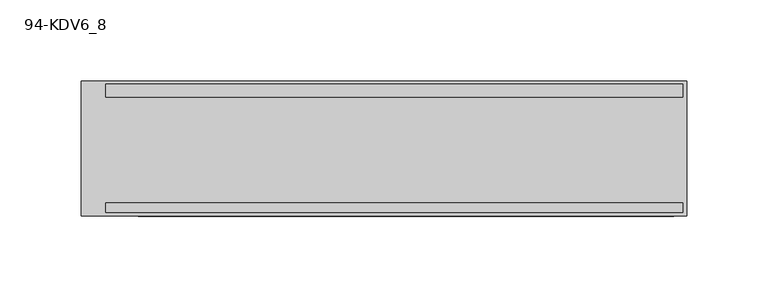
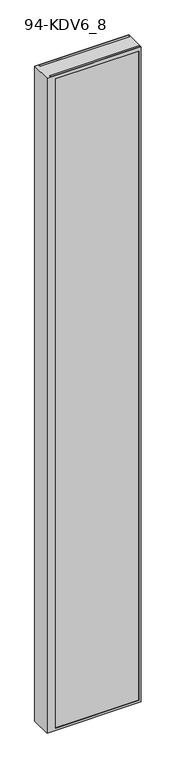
"""IFC4 building model written with IfcOpenShell, lengths in millimetres: plate geometry, PNX_VITRE_DV : 94-KDV6_8."""

import ifcopenshell
import ifcopenshell.guid

model = None  # the IFC model being written
_history = None  # IfcOwnerHistory: only IFC2X3 demands one
_inside = {}  # id of a spatial element -> (the spatial element, [elements in it])
_under = {}  # id of a project, library or spatial element -> (it, [spatial elements below it])
_declared = {}  # id of a project -> (the project, [libraries it declares])
_typed = {}  # id of a type object -> (the type object, [elements of that type])
_made_of = {}  # id of a material, layer set ... -> (it, [elements and type objects made of it])


def new_model(schema):
    """Start an empty IFC model of exactly this schema.

    Asked for "IFC4X3", IfcOpenShell would pick the latest addendum, in which some entities
    have other attributes; the version numbers below select the first issue.
    IFC2X3 requires an IfcOwnerHistory on every rooted entity: one is made here for all.
    """
    global model, _history
    if schema == "IFC4X3":
        model = ifcopenshell.file(schema_version=(4, 3, 0, 0))
    else:
        model = ifcopenshell.file(schema=schema)
    _inside.clear()
    _under.clear()
    _declared.clear()
    _typed.clear()
    _made_of.clear()
    _history = None
    if model.schema == "IFC2X3":
        org = make("IfcOrganization", Name="unknown")
        user = make(
            "IfcPersonAndOrganization",
            ThePerson=make("IfcPerson", FamilyName="unknown"),
            TheOrganization=org,
        )
        app = make(
            "IfcApplication",
            ApplicationDeveloper=org,
            Version="unknown",
            ApplicationFullName="unknown",
            ApplicationIdentifier="unknown",
        )
        _history = make(
            "IfcOwnerHistory",
            OwningUser=user,
            OwningApplication=app,
            ChangeAction="ADDED",
            CreationDate=0,
        )
    return model


def make(cls, **values):
    """One entity of the class cls with the attributes given. An attribute that is None is left unset."""
    return model.create_entity(
        cls, **{name: value for name, value in values.items() if value is not None}
    )


def rooted(cls, **values):
    """An entity with a GlobalId (a new one), such as an element, a storey or a relation."""
    return make(cls, GlobalId=ifcopenshell.guid.new(), OwnerHistory=_history, **values)


def si_unit(unit_type, name, prefix=None):
    """IfcSIUnit, for example si_unit("LENGTHUNIT", "METRE", prefix="MILLI")."""
    return make("IfcSIUnit", UnitType=unit_type, Prefix=prefix, Name=name)


def assignment(units):
    """IfcUnitAssignment: the units of a project."""
    return None if units is None else make("IfcUnitAssignment", Units=units)


def point(xyz):
    """IfcCartesianPoint."""
    return None if xyz is None else make("IfcCartesianPoint", Coordinates=xyz)


def direction(xyz):
    """IfcDirection."""
    return None if xyz is None else make("IfcDirection", DirectionRatios=xyz)


def frame(location, z_axis=None, x_axis=None):
    """IfcAxis2Placement3D, a coordinate frame: its origin and axes. An axis left out is left unset."""
    return make(
        "IfcAxis2Placement3D",
        Location=point(location),
        Axis=direction(z_axis),
        RefDirection=direction(x_axis),
    )


def origin():
    """The frame at (0, 0, 0) with its axes left unset."""
    return frame((0.0, 0.0, 0.0))


def origin_with_axes():
    """The frame at (0, 0, 0) with the z axis (0, 0, 1) and the x axis (1, 0, 0) written out."""
    return frame((0.0, 0.0, 0.0), z_axis=(0.0, 0.0, 1.0), x_axis=(1.0, 0.0, 0.0))


def place(relative_to, where):
    """IfcLocalPlacement: puts the frame where relative to a parent placement (None: the world)."""
    return make(
        "IfcLocalPlacement", PlacementRelTo=relative_to, RelativePlacement=where
    )


def context(
    kind, dimensions, precision=None, world=None, true_north=None, identifier=None
):
    """IfcGeometricRepresentationContext, for example the 3D "Model" context."""
    return make(
        "IfcGeometricRepresentationContext",
        ContextIdentifier=identifier,
        ContextType=kind,
        CoordinateSpaceDimension=dimensions,
        Precision=precision,
        WorldCoordinateSystem=world,
        TrueNorth=true_north,
    )


def project(units=None, contexts=None):
    """IfcProject with its units and contexts."""
    return rooted(
        "IfcProject",
        Name="project",
        RepresentationContexts=contexts,
        UnitsInContext=assignment(units),
    )


def spatial(cls, under=None, at=None, **own):
    """A site, building, storey or space (cls), placed at a placement, below another one or the project."""
    s = rooted(cls, ObjectPlacement=at, **own)
    if under is not None:
        _under.setdefault(under.id(), (under, []))[1].append(s)
    return s


def polyline(points):
    """IfcPolyline through the points."""
    return make("IfcPolyline", Points=[point(p) for p in points])


def outline(outer, holes=None, kind="AREA"):
    """IfcArbitraryClosedProfileDef: a profile drawn as a closed curve; with holes, ...WithVoids."""
    if holes is None:
        return make("IfcArbitraryClosedProfileDef", ProfileType=kind, OuterCurve=outer)
    return make(
        "IfcArbitraryProfileDefWithVoids",
        ProfileType=kind,
        OuterCurve=outer,
        InnerCurves=holes,
    )


def extrude(swept, where, along, depth):
    """IfcExtrudedAreaSolid: the profile swept, set in the frame where, extruded along a direction by depth."""
    return make(
        "IfcExtrudedAreaSolid",
        SweptArea=swept,
        Position=where,
        ExtrudedDirection=direction(along),
        Depth=depth,
    )


def shape(context_of_items, identifier, shape_type, items):
    """IfcShapeRepresentation: the items that make up one representation, for example the "Body"."""
    return make(
        "IfcShapeRepresentation",
        ContextOfItems=context_of_items,
        RepresentationIdentifier=identifier,
        RepresentationType=shape_type,
        Items=items,
    )


def source(mapping_origin, context_of_items, identifier, shape_type, items):
    """IfcRepresentationMap: a shape defined once, which mapped items show again and again."""
    return make(
        "IfcRepresentationMap",
        MappingOrigin=mapping_origin,
        MappedRepresentation=shape(context_of_items, identifier, shape_type, items),
    )


def transform(
    local_origin,
    x_axis=None,
    y_axis=None,
    z_axis=None,
    scale=None,
    scale2=None,
    scale3=None,
    uniform=True,
):
    """IfcCartesianTransformationOperator3D, or its non-uniform kind. x_axis, y_axis, z_axis: its Axis1, 2, 3."""
    if uniform:
        return make(
            "IfcCartesianTransformationOperator3D",
            Axis1=direction(x_axis),
            Axis2=direction(y_axis),
            LocalOrigin=point(local_origin),
            Scale=scale,
            Axis3=direction(z_axis),
        )
    return make(
        "IfcCartesianTransformationOperator3DnonUniform",
        Axis1=direction(x_axis),
        Axis2=direction(y_axis),
        LocalOrigin=point(local_origin),
        Scale=scale,
        Axis3=direction(z_axis),
        Scale2=scale2,
        Scale3=scale3,
    )


def mapped(mapping_source, mapping_target):
    """IfcMappedItem: shows the shape of a source again, moved by a transform."""
    return make(
        "IfcMappedItem", MappingSource=mapping_source, MappingTarget=mapping_target
    )


def made_of(thing, what):
    """Note that an element or type object is made of a material, layer set ...; save() writes the relation."""
    if what is not None:
        _made_of.setdefault(what.id(), (what, []))[1].append(thing)
    return thing


def element(
    cls,
    number,
    at=None,
    inside=None,
    cuts=None,
    type_object=None,
    material=None,
    context=None,
    identifier="Body",
    shape_type=None,
    held_by="IfcProductDefinitionShape",
    body=None,
    shapes=None,
    **own,
):
    """One element of the class cls, such as IfcWall. Its Tag is "e" and its number.

    at: its placement. inside: the storey or other place that contains it. cuts: it is an
    opening in that element (IfcRelVoidsElement). A single representation is given by context,
    identifier, shape_type and body (its items); several are given by shapes. held_by: the class
    of the entity that holds the representations. save() writes the other relations.
    """
    e = rooted(cls, Tag="e%d" % number, ObjectPlacement=at, **own)
    if body is not None:
        shapes = [shape(context, identifier, shape_type, body)]
    if shapes is not None:
        e.Representation = make(held_by, Representations=shapes)
    if inside is not None:
        _inside.setdefault(inside.id(), (inside, []))[1].append(e)
    if cuts is not None:
        rooted(
            "IfcRelVoidsElement", RelatingBuildingElement=cuts, RelatedOpeningElement=e
        )
    if type_object is not None:
        _typed.setdefault(type_object.id(), (type_object, []))[1].append(e)
    return made_of(e, material)


def aggregate(whole, parts):
    """IfcRelAggregates: a whole, such as a stair, and the parts it consists of."""
    return rooted("IfcRelAggregates", RelatingObject=whole, RelatedObjects=parts)


def save(model, path):
    """Write the relations noted so far, then the file.

    IfcRelAggregates (storeys below a building ...), IfcRelContainedInSpatialStructure (elements
    in a storey), IfcRelDefinesByType, IfcRelAssociatesMaterial and IfcRelDeclares: one each for
    every whole, place, type object, material and project.
    """
    for whole, parts in _under.values():
        aggregate(whole, parts)
    for where, things in _inside.values():
        rooted(
            "IfcRelContainedInSpatialStructure",
            RelatedElements=things,
            RelatingStructure=where,
        )
    for kind, things in _typed.values():
        rooted("IfcRelDefinesByType", RelatedObjects=things, RelatingType=kind)
    for what, things in _made_of.values():
        rooted("IfcRelAssociatesMaterial", RelatedObjects=things, RelatingMaterial=what)
    for by, libraries in _declared.values():
        rooted("IfcRelDeclares", RelatingContext=by, RelatedDefinitions=libraries)
    model.write(path)


def plate_94_kdv6_8_e2feaf4b(model_context):
    return source(origin(), model_context, "Body", "SweptSolid", [
        extrude(outline(polyline([(183.9, -39.5), (-171.4, -39.5), (-171.4, -33.5), (183.9, -33.5), (183.9, -39.5)])), origin_with_axes(), (0.0, 0.0, 1.0), 2739.0),
        extrude(outline(polyline([(183.9, 31.5), (-171.4, 31.5), (-171.4, 39.5), (183.9, 39.5), (183.9, 31.5)])), origin_with_axes(), (0.0, 0.0, 1.0), 2739.0),
        extrude(outline(polyline([(2739.0, 186.4), (2739.0, -186.4), (0.0, -186.4), (0.0, 186.4), (2739.0, 186.4)]), holes=[polyline([(2724.0, -151.4), (2724.0, 178.4), (9.0, 178.4), (9.0, -151.4), (2724.0, -151.4)])]), frame((0.0, -41.5, 0.0), z_axis=(0.0, 1.0, 0.0), x_axis=(0.0, 0.0, 1.0)), (0.0, 0.0, 1.0), 83.0),
    ])


if __name__ == "__main__":
    model = new_model("IFC4")
    model_context = context("Model", 3, world=origin())
    ifc_project = project(units=[si_unit("LENGTHUNIT", "METRE", prefix="MILLI")], contexts=[model_context])
    site = spatial("IfcSite", under=ifc_project)
    building = spatial("IfcBuilding", under=site)
    placement = place(None, origin())
    plate_94_kdv6_8_shape = plate_94_kdv6_8_e2feaf4b(model_context)
    element("IfcPlate", 1, ObjectType="PNX_VITRE_DV : 94-KDV6_8", at=placement, inside=building, context=model_context, shape_type="MappedRepresentation", body=[
        mapped(plate_94_kdv6_8_shape, transform((0.0, 0.0, 0.0), x_axis=(1.0, 0.0, 0.0), y_axis=(0.0, 1.0, 0.0), z_axis=(0.0, 0.0, 1.0))),
    ])
    save(model, "model.ifc")
